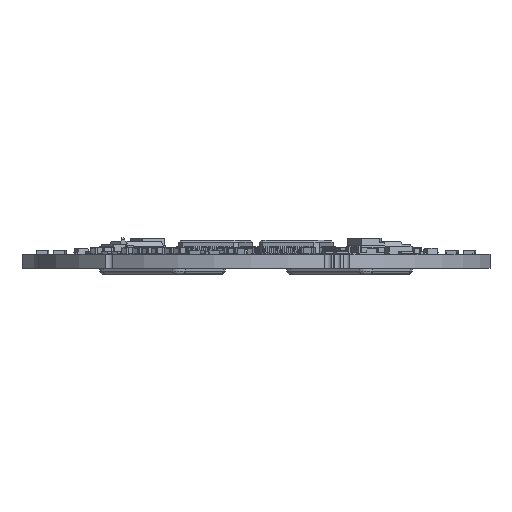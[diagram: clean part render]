
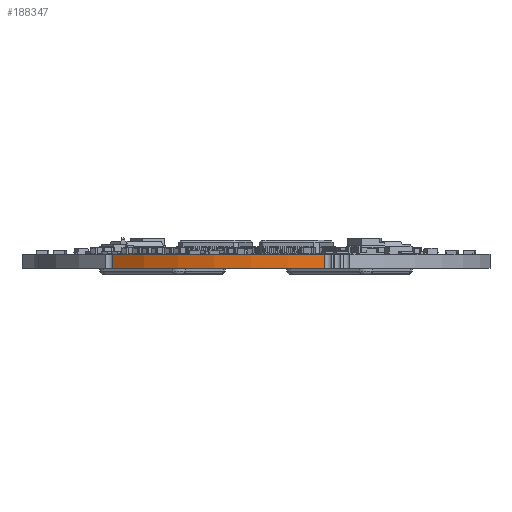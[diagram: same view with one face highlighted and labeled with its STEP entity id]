
A CAD part, front view. The second image highlights one B-rep face of the part: STEP entity #188347.
In plain terms, the highlighted cylindrical face has radius 27 mm (diameter 54 mm), a partial arc.
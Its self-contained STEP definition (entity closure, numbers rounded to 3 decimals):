
#1826 = CARTESIAN_POINT ( 'NONE',  ( -16.225, -21.583, 0. ) ) ;
#5925 = AXIS2_PLACEMENT_3D ( 'NONE', #111466, #12604, #78990 ) ;
#11605 = DIRECTION ( 'NONE',  ( -1., 0., 0. ) ) ;
#12604 = DIRECTION ( 'NONE',  ( 0., 0., 1. ) ) ;
#13214 = VECTOR ( 'NONE', #54633, 1000. ) ;
#15878 = CIRCLE ( 'NONE', #5925, 27. ) ;
#20549 = LINE ( 'NONE', #142017, #157480 ) ;
#22825 = CARTESIAN_POINT ( 'NONE',  ( -16.225, -21.583, -1.6 ) ) ;
#27376 = AXIS2_PLACEMENT_3D ( 'NONE', #94571, #110486, #11605 ) ;
#28646 = DIRECTION ( 'NONE',  ( 0., 0., -1. ) ) ;
#31860 = CARTESIAN_POINT ( 'NONE',  ( 7.792, -25.851, -1.6 ) ) ;
#34908 = EDGE_LOOP ( 'NONE', ( #157801, #142939, #200349, #132514 ) ) ;
#38750 = CARTESIAN_POINT ( 'NONE',  ( 7.792, -25.851, -1.6 ) ) ;
#44538 = CARTESIAN_POINT ( 'NONE',  ( -0.002, -0.001, -1.6 ) ) ;
#44873 = AXIS2_PLACEMENT_3D ( 'NONE', #44538, #28646, #47379 ) ;
#47379 = DIRECTION ( 'NONE',  ( -1., 0., 0. ) ) ;
#54633 = DIRECTION ( 'NONE',  ( 0., 0., 1. ) ) ;
#58165 = VERTEX_POINT ( 'NONE', #31860 ) ;
#59011 = EDGE_CURVE ( 'NONE', #135374, #58165, #15878, .T. ) ;
#72076 = VERTEX_POINT ( 'NONE', #1826 ) ;
#78990 = DIRECTION ( 'NONE',  ( -1., 0., 0. ) ) ;
#86314 = FACE_OUTER_BOUND ( 'NONE', #34908, .T. ) ;
#94571 = CARTESIAN_POINT ( 'NONE',  ( -0.002, -0.001, 0. ) ) ;
#96495 = DIRECTION ( 'NONE',  ( 0., 0., -1. ) ) ;
#110486 = DIRECTION ( 'NONE',  ( 0., 0., -1. ) ) ;
#111466 = CARTESIAN_POINT ( 'NONE',  ( -0.002, -0.001, -1.6 ) ) ;
#116551 = EDGE_CURVE ( 'NONE', #72076, #135374, #20549, .T. ) ;
#122470 = EDGE_CURVE ( 'NONE', #58165, #140024, #134536, .T. ) ;
#125306 = CYLINDRICAL_SURFACE ( 'NONE', #44873, 27. ) ;
#132514 = ORIENTED_EDGE ( 'NONE', *, *, #159618, .T. ) ;
#134536 = LINE ( 'NONE', #38750, #13214 ) ;
#135374 = VERTEX_POINT ( 'NONE', #22825 ) ;
#140024 = VERTEX_POINT ( 'NONE', #181099 ) ;
#142017 = CARTESIAN_POINT ( 'NONE',  ( -16.225, -21.583, -1.6 ) ) ;
#142939 = ORIENTED_EDGE ( 'NONE', *, *, #59011, .T. ) ;
#157480 = VECTOR ( 'NONE', #96495, 1000. ) ;
#157801 = ORIENTED_EDGE ( 'NONE', *, *, #116551, .T. ) ;
#159618 = EDGE_CURVE ( 'NONE', #140024, #72076, #199349, .T. ) ;
#181099 = CARTESIAN_POINT ( 'NONE',  ( 7.792, -25.851, 0. ) ) ;
#188347 = ADVANCED_FACE ( 'NONE', ( #86314 ), #125306, .T. ) ;
#199349 = CIRCLE ( 'NONE', #27376, 27. ) ;
#200349 = ORIENTED_EDGE ( 'NONE', *, *, #122470, .T. ) ;
